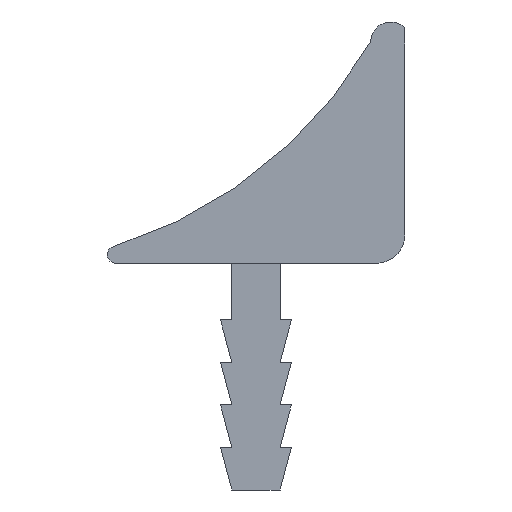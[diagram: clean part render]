
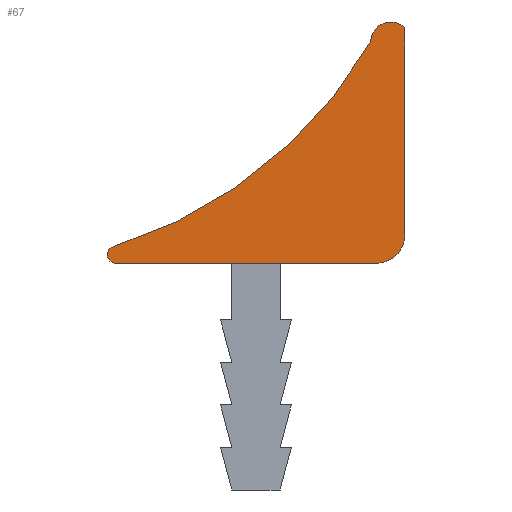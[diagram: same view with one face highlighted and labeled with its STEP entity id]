
A CAD part, left-side view. The second image highlights one B-rep face of the part: STEP entity #67.
In plain terms, the highlighted planar face has unit normal (-1, 0, 0).
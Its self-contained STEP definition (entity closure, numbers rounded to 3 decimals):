
#67 = ADVANCED_FACE( '', ( #149 ), #150, .F. );
#149 = FACE_OUTER_BOUND( '', #244, .T. );
#150 = PLANE( '', #245 );
#244 = EDGE_LOOP( '', ( #402, #403, #404, #405, #406, #407 ) );
#245 = AXIS2_PLACEMENT_3D( '', #408, #409, #410 );
#402 = ORIENTED_EDGE( '', *, *, #601, .F. );
#403 = ORIENTED_EDGE( '', *, *, #646, .F. );
#404 = ORIENTED_EDGE( '', *, *, #647, .F. );
#405 = ORIENTED_EDGE( '', *, *, #648, .F. );
#406 = ORIENTED_EDGE( '', *, *, #649, .F. );
#407 = ORIENTED_EDGE( '', *, *, #650, .T. );
#408 = CARTESIAN_POINT( '', ( -30., 8.923, 23.868 ) );
#409 = DIRECTION( '', ( 1., 0., 0. ) );
#410 = DIRECTION( '', ( 0., 0., -1. ) );
#601 = EDGE_CURVE( '', #722, #723, #724, .T. );
#646 = EDGE_CURVE( '', #801, #722, #802, .T. );
#647 = EDGE_CURVE( '', #803, #801, #804, .T. );
#648 = EDGE_CURVE( '', #805, #803, #806, .T. );
#649 = EDGE_CURVE( '', #807, #805, #808, .T. );
#650 = EDGE_CURVE( '', #807, #723, #809, .T. );
#722 = VERTEX_POINT( '', #891 );
#723 = VERTEX_POINT( '', #892 );
#724 = CIRCLE( '', #893, 0.3 );
#801 = VERTEX_POINT( '', #1010 );
#802 = LINE( '', #1011, #1012 );
#803 = VERTEX_POINT( '', #1013 );
#804 = CIRCLE( '', #1014, 1. );
#805 = VERTEX_POINT( '', #1015 );
#806 = LINE( '', #1016, #1017 );
#807 = VERTEX_POINT( '', #1018 );
#808 = CIRCLE( '', #1019, 0.7 );
#809 = CIRCLE( '', #1020, 16. );
#891 = CARTESIAN_POINT( '', ( -30., 4.1, 8. ) );
#892 = CARTESIAN_POINT( '', ( -30., 4.162, 8.593 ) );
#893 = AXIS2_PLACEMENT_3D( '', #1100, #1101, #1102 );
#1010 = CARTESIAN_POINT( '', ( -30., -5.1, 8. ) );
#1011 = CARTESIAN_POINT( '', ( -30., -5.1, 8. ) );
#1012 = VECTOR( '', #1143, 1000. );
#1013 = CARTESIAN_POINT( '', ( -30., -6.1, 9. ) );
#1014 = AXIS2_PLACEMENT_3D( '', #1144, #1145, #1146 );
#1015 = CARTESIAN_POINT( '', ( -30., -6.1, 16.3 ) );
#1016 = CARTESIAN_POINT( '', ( -30., -6.1, 16.3 ) );
#1017 = VECTOR( '', #1147, 1000. );
#1018 = CARTESIAN_POINT( '', ( -30., -4.9, 15.81 ) );
#1019 = AXIS2_PLACEMENT_3D( '', #1148, #1149, #1150 );
#1020 = AXIS2_PLACEMENT_3D( '', #1151, #1152, #1153 );
#1100 = CARTESIAN_POINT( '', ( -30., 4.098, 8.3 ) );
#1101 = DIRECTION( '', ( 1., 0., 0. ) );
#1102 = DIRECTION( '', ( 0., 0., -1. ) );
#1143 = DIRECTION( '', ( 0., 1., 0. ) );
#1144 = CARTESIAN_POINT( '', ( -30., -5.1, 9. ) );
#1145 = DIRECTION( '', ( 1., 0., 0. ) );
#1146 = DIRECTION( '', ( 0., 0., -1. ) );
#1147 = DIRECTION( '', ( 0., 0., -1. ) );
#1148 = CARTESIAN_POINT( '', ( -30., -5.6, 15.81 ) );
#1149 = DIRECTION( '', ( 1., 0., 0. ) );
#1150 = DIRECTION( '', ( 0., 0., -1. ) );
#1151 = CARTESIAN_POINT( '', ( -30., 8.923, 23.868 ) );
#1152 = DIRECTION( '', ( 1., 0., 0. ) );
#1153 = DIRECTION( '', ( 0., 0., -1. ) );
